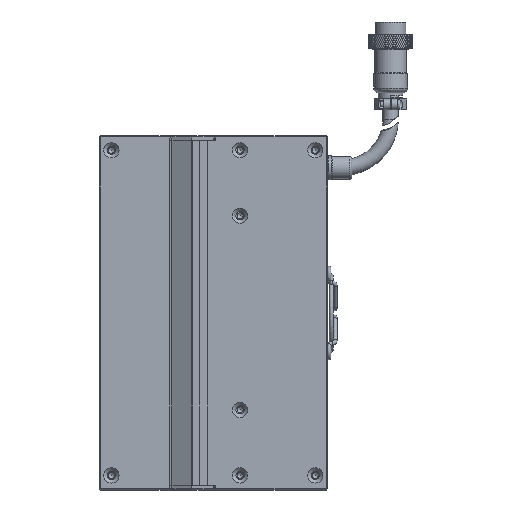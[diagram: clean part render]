
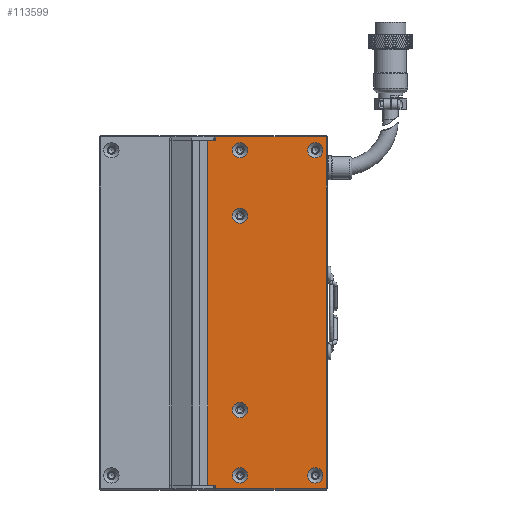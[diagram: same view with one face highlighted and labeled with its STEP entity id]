
A CAD part, left-side view. The second image highlights one B-rep face of the part: STEP entity #113599.
In plain terms, the highlighted planar face has unit normal (-1, 0, 0).
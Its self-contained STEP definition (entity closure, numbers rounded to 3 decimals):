
#99 = DIRECTION ( 'NONE',  ( 0., -1., 0. ) ) ;
#1609 = DIRECTION ( 'NONE',  ( -1., 0., 0. ) ) ;
#2285 = CIRCLE ( 'NONE', #16461, 3.15 ) ;
#2425 = DIRECTION ( 'NONE',  ( 0., 0., -1. ) ) ;
#3664 = EDGE_CURVE ( 'NONE', #109220, #20212, #61619, .T. ) ;
#4074 = CARTESIAN_POINT ( 'NONE',  ( -24.998, -72.5, -72.5 ) ) ;
#4285 = AXIS2_PLACEMENT_3D ( 'NONE', #39444, #56650, #47866 ) ;
#7192 = ORIENTED_EDGE ( 'NONE', *, *, #72310, .F. ) ;
#7612 = AXIS2_PLACEMENT_3D ( 'NONE', #94367, #103122, #21068 ) ;
#9070 = CARTESIAN_POINT ( 'NONE',  ( -24.998, -23.25, -71. ) ) ;
#9497 = LINE ( 'NONE', #92033, #82562 ) ;
#9779 = VECTOR ( 'NONE', #86786, 1000. ) ;
#11805 = EDGE_LOOP ( 'NONE', ( #41736 ) ) ;
#14480 = VERTEX_POINT ( 'NONE', #14779 ) ;
#14779 = CARTESIAN_POINT ( 'NONE',  ( -24.998, -67.5, -63.85 ) ) ;
#15351 = CARTESIAN_POINT ( 'NONE',  ( -24.998, -36.5, 40. ) ) ;
#15948 = VERTEX_POINT ( 'NONE', #60391 ) ;
#16461 = AXIS2_PLACEMENT_3D ( 'NONE', #65195, #1609, #55969 ) ;
#16707 = CARTESIAN_POINT ( 'NONE',  ( -24.998, -72.5, 71. ) ) ;
#17094 = VECTOR ( 'NONE', #29201, 1000. ) ;
#17376 = ORIENTED_EDGE ( 'NONE', *, *, #71829, .F. ) ;
#17680 = EDGE_CURVE ( 'NONE', #109220, #34886, #57621, .T. ) ;
#18349 = LINE ( 'NONE', #96009, #9779 ) ;
#20212 = VERTEX_POINT ( 'NONE', #82380 ) ;
#20815 = DIRECTION ( 'NONE',  ( 0., 0., 1. ) ) ;
#20851 = ORIENTED_EDGE ( 'NONE', *, *, #61912, .T. ) ;
#21068 = DIRECTION ( 'NONE',  ( 0., 0., 1. ) ) ;
#21355 = CIRCLE ( 'NONE', #4285, 3.15 ) ;
#21558 = VERTEX_POINT ( 'NONE', #40950 ) ;
#22132 = FACE_BOUND ( 'NONE', #61442, .T. ) ;
#24888 = VECTOR ( 'NONE', #40448, 1000. ) ;
#25543 = DIRECTION ( 'NONE',  ( 0., 0., -1. ) ) ;
#27083 = LINE ( 'NONE', #37608, #114526 ) ;
#27103 = LINE ( 'NONE', #92500, #17094 ) ;
#27110 = EDGE_CURVE ( 'NONE', #77717, #63443, #27103, .T. ) ;
#27148 = ORIENTED_EDGE ( 'NONE', *, *, #90438, .T. ) ;
#27432 = VERTEX_POINT ( 'NONE', #114883 ) ;
#28428 = EDGE_CURVE ( 'NONE', #34886, #21558, #74340, .T. ) ;
#29201 = DIRECTION ( 'NONE',  ( 0., 1., 0. ) ) ;
#30186 = ORIENTED_EDGE ( 'NONE', *, *, #17680, .F. ) ;
#30257 = ORIENTED_EDGE ( 'NONE', *, *, #66070, .F. ) ;
#30791 = DIRECTION ( 'NONE',  ( -1., 0., 0. ) ) ;
#32266 = CIRCLE ( 'NONE', #98744, 3.15 ) ;
#33618 = FACE_BOUND ( 'NONE', #11805, .T. ) ;
#34738 = PLANE ( 'NONE',  #90869 ) ;
#34886 = VERTEX_POINT ( 'NONE', #95919 ) ;
#35937 = VERTEX_POINT ( 'NONE', #42027 ) ;
#36382 = EDGE_CURVE ( 'NONE', #27432, #27432, #2285, .T. ) ;
#36764 = DIRECTION ( 'NONE',  ( 0., 0., -1. ) ) ;
#37608 = CARTESIAN_POINT ( 'NONE',  ( -24.998, -26.5, -64. ) ) ;
#39444 = CARTESIAN_POINT ( 'NONE',  ( -24.998, -36.5, 67. ) ) ;
#40448 = DIRECTION ( 'NONE',  ( 0., -1., 0. ) ) ;
#40950 = CARTESIAN_POINT ( 'NONE',  ( -24.998, -26.5, 71. ) ) ;
#41736 = ORIENTED_EDGE ( 'NONE', *, *, #70990, .F. ) ;
#42027 = CARTESIAN_POINT ( 'NONE',  ( -24.998, -36.5, 43.15 ) ) ;
#42130 = AXIS2_PLACEMENT_3D ( 'NONE', #75295, #30791, #20815 ) ;
#42186 = ORIENTED_EDGE ( 'NONE', *, *, #70604, .T. ) ;
#42264 = FACE_BOUND ( 'NONE', #65290, .T. ) ;
#42911 = DIRECTION ( 'NONE',  ( 0., 0., 1. ) ) ;
#43302 = EDGE_LOOP ( 'NONE', ( #17376 ) ) ;
#43441 = CIRCLE ( 'NONE', #7612, 3.15 ) ;
#47496 = ORIENTED_EDGE ( 'NONE', *, *, #36382, .F. ) ;
#47866 = DIRECTION ( 'NONE',  ( 0., 0., 1. ) ) ;
#48901 = CARTESIAN_POINT ( 'NONE',  ( -24.998, -26.5, -72.5 ) ) ;
#52880 = VECTOR ( 'NONE', #99, 1000. ) ;
#55086 = FACE_OUTER_BOUND ( 'NONE', #113764, .T. ) ;
#55254 = CARTESIAN_POINT ( 'NONE',  ( -24.998, -72.5, 71. ) ) ;
#55969 = DIRECTION ( 'NONE',  ( 0., 0., 1. ) ) ;
#56650 = DIRECTION ( 'NONE',  ( -1., 0., 0. ) ) ;
#57621 = LINE ( 'NONE', #104370, #103472 ) ;
#57942 = DIRECTION ( 'NONE',  ( 0., 0., 1. ) ) ;
#58723 = VECTOR ( 'NONE', #106372, 1000. ) ;
#59084 = CIRCLE ( 'NONE', #42130, 3.15 ) ;
#60391 = CARTESIAN_POINT ( 'NONE',  ( -24.998, -36.5, -63.85 ) ) ;
#60706 = CARTESIAN_POINT ( 'NONE',  ( -24.998, -72.5, -71. ) ) ;
#61264 = CARTESIAN_POINT ( 'NONE',  ( -24.998, -72., 72.5 ) ) ;
#61442 = EDGE_LOOP ( 'NONE', ( #47496 ) ) ;
#61619 = LINE ( 'NONE', #60706, #58723 ) ;
#61912 = EDGE_CURVE ( 'NONE', #87532, #66457, #79352, .T. ) ;
#63443 = VERTEX_POINT ( 'NONE', #79621 ) ;
#63687 = EDGE_LOOP ( 'NONE', ( #7192 ) ) ;
#64713 = ORIENTED_EDGE ( 'NONE', *, *, #105288, .T. ) ;
#65195 = CARTESIAN_POINT ( 'NONE',  ( -24.998, -67.5, 67. ) ) ;
#65290 = EDGE_LOOP ( 'NONE', ( #30257 ) ) ;
#66070 = EDGE_CURVE ( 'NONE', #35937, #35937, #84884, .T. ) ;
#66248 = ORIENTED_EDGE ( 'NONE', *, *, #3664, .T. ) ;
#66457 = VERTEX_POINT ( 'NONE', #97335 ) ;
#66582 = FACE_BOUND ( 'NONE', #43302, .T. ) ;
#70012 = DIRECTION ( 'NONE',  ( 1., 0., 0. ) ) ;
#70130 = CARTESIAN_POINT ( 'NONE',  ( -24.998, -36.5, -67. ) ) ;
#70604 = EDGE_CURVE ( 'NONE', #20212, #87532, #27083, .T. ) ;
#70623 = DIRECTION ( 'NONE',  ( 0., 0., 1. ) ) ;
#70990 = EDGE_CURVE ( 'NONE', #117630, #117630, #21355, .T. ) ;
#71328 = ORIENTED_EDGE ( 'NONE', *, *, #27110, .T. ) ;
#71829 = EDGE_CURVE ( 'NONE', #93295, #93295, #59084, .T. ) ;
#72310 = EDGE_CURVE ( 'NONE', #14480, #14480, #43441, .T. ) ;
#74340 = LINE ( 'NONE', #55254, #52880 ) ;
#75295 = CARTESIAN_POINT ( 'NONE',  ( -24.998, -36.5, -40. ) ) ;
#77717 = VERTEX_POINT ( 'NONE', #61264 ) ;
#79352 = LINE ( 'NONE', #4074, #24888 ) ;
#79621 = CARTESIAN_POINT ( 'NONE',  ( -24.998, -26.5, 72.5 ) ) ;
#82380 = CARTESIAN_POINT ( 'NONE',  ( -24.998, -26.5, -71. ) ) ;
#82562 = VECTOR ( 'NONE', #36764, 1000. ) ;
#84884 = CIRCLE ( 'NONE', #101540, 3.15 ) ;
#85207 = FACE_BOUND ( 'NONE', #118503, .T. ) ;
#86163 = EDGE_CURVE ( 'NONE', #15948, #15948, #32266, .T. ) ;
#86786 = DIRECTION ( 'NONE',  ( 0., 0., 1. ) ) ;
#87532 = VERTEX_POINT ( 'NONE', #48901 ) ;
#88058 = CARTESIAN_POINT ( 'NONE',  ( -24.998, -36.5, 70.15 ) ) ;
#89056 = DIRECTION ( 'NONE',  ( -1., 0., 0. ) ) ;
#90438 = EDGE_CURVE ( 'NONE', #63443, #21558, #9497, .T. ) ;
#90869 = AXIS2_PLACEMENT_3D ( 'NONE', #16707, #70012, #25543 ) ;
#90981 = FACE_BOUND ( 'NONE', #63687, .T. ) ;
#92033 = CARTESIAN_POINT ( 'NONE',  ( -24.998, -26.5, 64. ) ) ;
#92500 = CARTESIAN_POINT ( 'NONE',  ( -24.998, -72.5, 72.5 ) ) ;
#93295 = VERTEX_POINT ( 'NONE', #107641 ) ;
#94367 = CARTESIAN_POINT ( 'NONE',  ( -24.998, -67.5, -67. ) ) ;
#95919 = CARTESIAN_POINT ( 'NONE',  ( -24.998, -23.25, 71. ) ) ;
#96009 = CARTESIAN_POINT ( 'NONE',  ( -24.998, -72., 71. ) ) ;
#97335 = CARTESIAN_POINT ( 'NONE',  ( -24.998, -72., -72.5 ) ) ;
#98744 = AXIS2_PLACEMENT_3D ( 'NONE', #70130, #106934, #42911 ) ;
#101540 = AXIS2_PLACEMENT_3D ( 'NONE', #15351, #89056, #70623 ) ;
#102674 = ORIENTED_EDGE ( 'NONE', *, *, #28428, .F. ) ;
#103122 = DIRECTION ( 'NONE',  ( -1., 0., 0. ) ) ;
#103472 = VECTOR ( 'NONE', #57942, 1000. ) ;
#104370 = CARTESIAN_POINT ( 'NONE',  ( -24.998, -23.25, -71. ) ) ;
#105288 = EDGE_CURVE ( 'NONE', #66457, #77717, #18349, .T. ) ;
#106372 = DIRECTION ( 'NONE',  ( 0., -1., 0. ) ) ;
#106934 = DIRECTION ( 'NONE',  ( -1., 0., 0. ) ) ;
#107641 = CARTESIAN_POINT ( 'NONE',  ( -24.998, -36.5, -36.85 ) ) ;
#109220 = VERTEX_POINT ( 'NONE', #9070 ) ;
#113599 = ADVANCED_FACE ( 'NONE', ( #90981, #85207, #33618, #66582, #42264, #55086, #22132 ), #34738, .F. ) ;
#113764 = EDGE_LOOP ( 'NONE', ( #66248, #42186, #20851, #64713, #71328, #27148, #102674, #30186 ) ) ;
#114526 = VECTOR ( 'NONE', #2425, 1000. ) ;
#114702 = ORIENTED_EDGE ( 'NONE', *, *, #86163, .F. ) ;
#114883 = CARTESIAN_POINT ( 'NONE',  ( -24.998, -67.5, 70.15 ) ) ;
#117630 = VERTEX_POINT ( 'NONE', #88058 ) ;
#118503 = EDGE_LOOP ( 'NONE', ( #114702 ) ) ;
